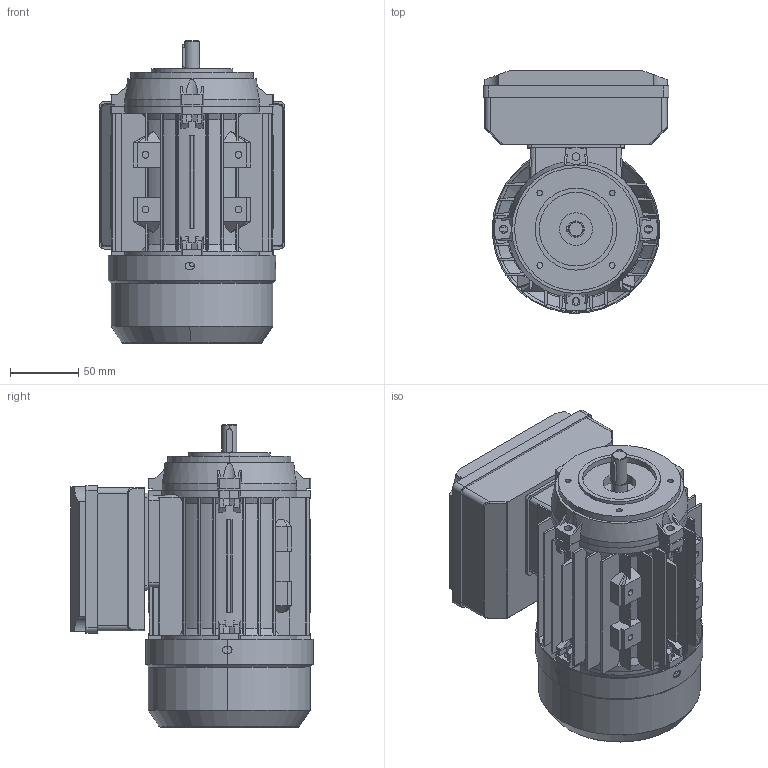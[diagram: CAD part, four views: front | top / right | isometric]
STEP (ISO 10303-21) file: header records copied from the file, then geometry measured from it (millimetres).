
FILE_DESCRIPTION (( 'STEP AP214' ), '1' );
FILE_NAME ('ML63_B14.STEP', '2016-04-28T08:03:17', ( '' ), ( '' ), 'SwSTEP 2.0', 'SolidWorks 2012', '' );
FILE_SCHEMA (( 'AUTOMOTIVE_DESIGN' ));
Length unit declared in the file: millimetre
Products named in the file (9): B14-Flansch_MS63; Klemmenkastendeckel_ML63; Klemmenkastenunterteil_ML63; L黤terfl黦el_MS63; Teil3^ML63_B14; Lüfterhaube_MS63; B-Lagerschild_MS63; Gehäuse_MS63; ML63_B14
Assembly tree (7 placements, depth 2):
  Teil3^ML63_B14
  ML63_B14
    Gehäuse_MS63
    B-Lagerschild_MS63
    Lüfterhaube_MS63
    L黤terfl黦el_MS63
    Klemmenkastenunterteil_ML63
    Klemmenkastendeckel_ML63
    B14-Flansch_MS63
Bounding box: 136 x 177.3 x 221.48 mm (x, y, z)
Volume: 530501.8 mm3; surface area: 410533.4 mm2
Topology: 7 solids, 7 shells, 1375 faces, 3746 edges, 2427 vertices
Faces by surface type: plane 752, cylinder 445, cone 95, bspline 81, sphere 2
Entity records: 47002 total; most frequent: CARTESIAN_POINT 12054, ORIENTED_EDGE 7488, DIRECTION 6893, EDGE_CURVE 3744, VERTEX_POINT 2427, AXIS2_PLACEMENT_3D 2338, LINE 2217, VECTOR 2217
